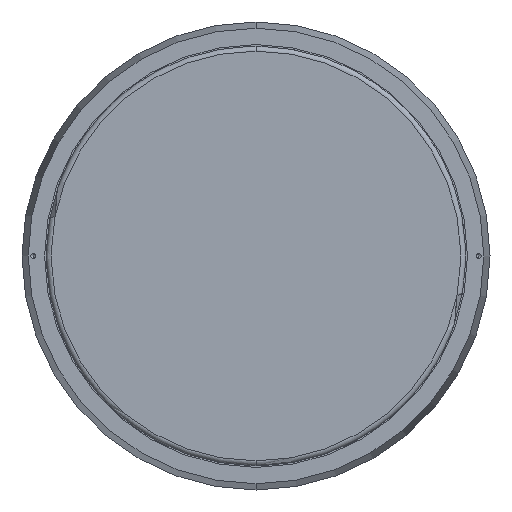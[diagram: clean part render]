
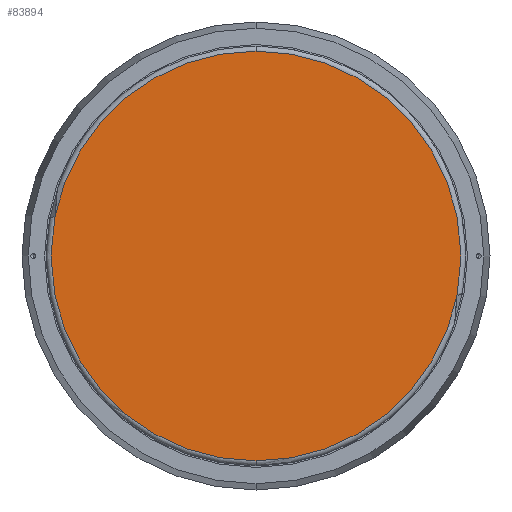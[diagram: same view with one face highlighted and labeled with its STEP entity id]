
A CAD part, front view. The second image highlights one B-rep face of the part: STEP entity #83894.
In plain terms, the highlighted planar face has unit normal (0, -1, 0).
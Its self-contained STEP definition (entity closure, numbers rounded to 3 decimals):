
#2123 = EDGE_CURVE ( 'NONE', #52016, #102646, #49106, .T. ) ;
#3369 = CARTESIAN_POINT ( 'NONE',  ( 624.86, -1805., 13.896 ) ) ;
#7694 = EDGE_CURVE ( 'NONE', #73231, #91279, #47572, .T. ) ;
#7807 = B_SPLINE_CURVE_WITH_KNOTS ( 'NONE', 3,
 ( #71738, #153713, #85539, #3369, #99308, #17209, #112995 ),
 .UNSPECIFIED., .F., .F.,
 ( 4, 3, 4 ),
 ( 0., 0., 0. ),
 .UNSPECIFIED. ) ;
#10403 = VECTOR ( 'NONE', #107259, 1000. ) ;
#12068 = CARTESIAN_POINT ( 'NONE',  ( -625., -1805., 13.91 ) ) ;
#13544 = CARTESIAN_POINT ( 'NONE',  ( -624.953, -1805., -13.822 ) ) ;
#15661 = DIRECTION ( 'NONE',  ( 0., 1., 0. ) ) ;
#17209 = CARTESIAN_POINT ( 'NONE',  ( 624.85, -1805., 13.904 ) ) ;
#18226 = CARTESIAN_POINT ( 'NONE',  ( -624.855, -1805., 13.9 ) ) ;
#19348 = ORIENTED_EDGE ( 'NONE', *, *, #86008, .T. ) ;
#21154 = EDGE_LOOP ( 'NONE', ( #19348, #62302, #103770, #129667, #108527, #141246, #22298, #166875, #81341, #94655, #135544, #59909 ) ) ;
#22114 = CARTESIAN_POINT ( 'NONE',  ( 624.85, -1805., -13.904 ) ) ;
#22298 = ORIENTED_EDGE ( 'NONE', *, *, #39572, .F. ) ;
#25124 = CARTESIAN_POINT ( 'NONE',  ( -625., -1805., 13.785 ) ) ;
#26149 = EDGE_CURVE ( 'NONE', #36899, #27012, #87702, .T. ) ;
#27012 = VERTEX_POINT ( 'NONE', #111096 ) ;
#27401 = CARTESIAN_POINT ( 'NONE',  ( -624.86, -1805., -13.896 ) ) ;
#30232 = AXIS2_PLACEMENT_3D ( 'NONE', #73798, #169505, #87632 ) ;
#32041 = CARTESIAN_POINT ( 'NONE',  ( -625., -1805., -13.785 ) ) ;
#32069 = CARTESIAN_POINT ( 'NONE',  ( -624.907, -1805., 13.859 ) ) ;
#36899 = VERTEX_POINT ( 'NONE', #32041 ) ;
#37127 = CARTESIAN_POINT ( 'NONE',  ( 0., -1805., 0. ) ) ;
#39163 = VERTEX_POINT ( 'NONE', #68620 ) ;
#39572 = EDGE_CURVE ( 'NONE', #27012, #102646, #111167, .T. ) ;
#41175 = CARTESIAN_POINT ( 'NONE',  ( -624.85, -1805., -13.904 ) ) ;
#42164 = VERTEX_POINT ( 'NONE', #168656 ) ;
#45808 = CARTESIAN_POINT ( 'NONE',  ( -625., -1805., 13.785 ) ) ;
#47572 = CIRCLE ( 'NONE', #66124, 625. ) ;
#49106 = B_SPLINE_CURVE_WITH_KNOTS ( 'NONE', 3,
 ( #100326, #86558, #18226, #113994, #32069, #127773, #45808 ),
 .UNSPECIFIED., .F., .F.,
 ( 4, 3, 4 ),
 ( 0., 0., 0. ),
 .UNSPECIFIED. ) ;
#50929 = DIRECTION ( 'NONE',  ( 0., 0., 1. ) ) ;
#51233 = AXIS2_PLACEMENT_3D ( 'NONE', #135413, #53514, #149222 ) ;
#52016 = VERTEX_POINT ( 'NONE', #177051 ) ;
#53514 = DIRECTION ( 'NONE',  ( 0., -1., 0. ) ) ;
#54712 = CIRCLE ( 'NONE', #86678, 625. ) ;
#55588 = DIRECTION ( 'NONE',  ( 0., 1., 0. ) ) ;
#59611 = FACE_OUTER_BOUND ( 'NONE', #21154, .T. ) ;
#59909 = ORIENTED_EDGE ( 'NONE', *, *, #127842, .T. ) ;
#62302 = ORIENTED_EDGE ( 'NONE', *, *, #87872, .T. ) ;
#63439 = CARTESIAN_POINT ( 'NONE',  ( 624.855, -1805., -13.9 ) ) ;
#66124 = AXIS2_PLACEMENT_3D ( 'NONE', #97802, #15661, #111469 ) ;
#68574 = DIRECTION ( 'NONE',  ( 0., 0., 1. ) ) ;
#68620 = CARTESIAN_POINT ( 'NONE',  ( 625., -1805., -13.785 ) ) ;
#71738 = CARTESIAN_POINT ( 'NONE',  ( 625., -1805., 13.785 ) ) ;
#73231 = VERTEX_POINT ( 'NONE', #128717 ) ;
#73798 = CARTESIAN_POINT ( 'NONE',  ( 0., -1805., 0. ) ) ;
#74251 = AXIS2_PLACEMENT_3D ( 'NONE', #137506, #55588, #151301 ) ;
#74307 = CARTESIAN_POINT ( 'NONE',  ( 0., -1805., -625. ) ) ;
#75323 = LINE ( 'NONE', #166291, #103171 ) ;
#77218 = CARTESIAN_POINT ( 'NONE',  ( 624.907, -1805., -13.859 ) ) ;
#80420 = PLANE ( 'NONE',  #51233 ) ;
#81341 = ORIENTED_EDGE ( 'NONE', *, *, #115812, .T. ) ;
#83894 = ADVANCED_FACE ( 'NONE', ( #59611 ), #80420, .T. ) ;
#85169 = VERTEX_POINT ( 'NONE', #101800 ) ;
#85539 = CARTESIAN_POINT ( 'NONE',  ( 624.907, -1805., 13.859 ) ) ;
#86008 = EDGE_CURVE ( 'NONE', #39163, #85169, #75323, .T. ) ;
#86558 = CARTESIAN_POINT ( 'NONE',  ( -624.85, -1805., 13.904 ) ) ;
#86678 = AXIS2_PLACEMENT_3D ( 'NONE', #37127, #132832, #50929 ) ;
#87632 = DIRECTION ( 'NONE',  ( 0., 0., 1. ) ) ;
#87702 = LINE ( 'NONE', #161687, #10403 ) ;
#87872 = EDGE_CURVE ( 'NONE', #85169, #114388, #97732, .T. ) ;
#90185 = EDGE_CURVE ( 'NONE', #118050, #42164, #176077, .T. ) ;
#91059 = CARTESIAN_POINT ( 'NONE',  ( 625., -1805., -13.785 ) ) ;
#91279 = VERTEX_POINT ( 'NONE', #74307 ) ;
#91498 = EDGE_CURVE ( 'NONE', #114388, #42164, #7807, .T. ) ;
#93645 = DIRECTION ( 'NONE',  ( 0., 0., 1. ) ) ;
#94655 = ORIENTED_EDGE ( 'NONE', *, *, #146279, .F. ) ;
#94714 = CIRCLE ( 'NONE', #30232, 625. ) ;
#97732 = LINE ( 'NONE', #150546, #170464 ) ;
#97802 = CARTESIAN_POINT ( 'NONE',  ( 0., -1805., 0. ) ) ;
#98576 = CARTESIAN_POINT ( 'NONE',  ( 0., -1805., 625. ) ) ;
#99308 = CARTESIAN_POINT ( 'NONE',  ( 624.855, -1805., 13.9 ) ) ;
#100326 = CARTESIAN_POINT ( 'NONE',  ( -624.845, -1805., 13.908 ) ) ;
#101800 = CARTESIAN_POINT ( 'NONE',  ( 625., -1805., 0. ) ) ;
#102646 = VERTEX_POINT ( 'NONE', #25124 ) ;
#103171 = VECTOR ( 'NONE', #111801, 1000. ) ;
#103770 = ORIENTED_EDGE ( 'NONE', *, *, #91498, .T. ) ;
#107259 = DIRECTION ( 'NONE',  ( 0., 0., 1. ) ) ;
#108527 = ORIENTED_EDGE ( 'NONE', *, *, #153548, .F. ) ;
#109388 = CARTESIAN_POINT ( 'NONE',  ( -624.907, -1805., -13.859 ) ) ;
#111096 = CARTESIAN_POINT ( 'NONE',  ( -625., -1805., 0. ) ) ;
#111167 = LINE ( 'NONE', #12068, #166818 ) ;
#111469 = DIRECTION ( 'NONE',  ( 0., 0., 1. ) ) ;
#111801 = DIRECTION ( 'NONE',  ( 0., 0., 1. ) ) ;
#112995 = CARTESIAN_POINT ( 'NONE',  ( 624.845, -1805., 13.908 ) ) ;
#113994 = CARTESIAN_POINT ( 'NONE',  ( -624.86, -1805., 13.896 ) ) ;
#114388 = VERTEX_POINT ( 'NONE', #170109 ) ;
#115812 = EDGE_CURVE ( 'NONE', #36899, #135546, #152814, .T. ) ;
#118050 = VERTEX_POINT ( 'NONE', #98576 ) ;
#123121 = CARTESIAN_POINT ( 'NONE',  ( -624.855, -1805., -13.9 ) ) ;
#127773 = CARTESIAN_POINT ( 'NONE',  ( -624.953, -1805., 13.822 ) ) ;
#127842 = EDGE_CURVE ( 'NONE', #73231, #39163, #169317, .T. ) ;
#128717 = CARTESIAN_POINT ( 'NONE',  ( 624.845, -1805., -13.908 ) ) ;
#129667 = ORIENTED_EDGE ( 'NONE', *, *, #90185, .F. ) ;
#132832 = DIRECTION ( 'NONE',  ( 0., 1., 0. ) ) ;
#135413 = CARTESIAN_POINT ( 'NONE',  ( -625., -1805., 0. ) ) ;
#135544 = ORIENTED_EDGE ( 'NONE', *, *, #7694, .F. ) ;
#135546 = VERTEX_POINT ( 'NONE', #151843 ) ;
#136871 = CARTESIAN_POINT ( 'NONE',  ( -624.845, -1805., -13.908 ) ) ;
#137506 = CARTESIAN_POINT ( 'NONE',  ( 0., -1805., 0. ) ) ;
#141246 = ORIENTED_EDGE ( 'NONE', *, *, #2123, .T. ) ;
#146279 = EDGE_CURVE ( 'NONE', #91279, #135546, #94714, .T. ) ;
#149222 = DIRECTION ( 'NONE',  ( 0., 0., -1. ) ) ;
#150546 = CARTESIAN_POINT ( 'NONE',  ( 625., -1805., 13.91 ) ) ;
#151301 = DIRECTION ( 'NONE',  ( 0., 0., 1. ) ) ;
#151843 = CARTESIAN_POINT ( 'NONE',  ( -624.845, -1805., -13.908 ) ) ;
#152814 = B_SPLINE_CURVE_WITH_KNOTS ( 'NONE', 3,
 ( #177551, #13544, #109388, #27401, #123121, #41175, #136871 ),
 .UNSPECIFIED., .F., .F.,
 ( 4, 3, 4 ),
 ( 0., 0., 0. ),
 .UNSPECIFIED. ) ;
#153548 = EDGE_CURVE ( 'NONE', #52016, #118050, #54712, .T. ) ;
#153713 = CARTESIAN_POINT ( 'NONE',  ( 624.953, -1805., 13.822 ) ) ;
#159193 = CARTESIAN_POINT ( 'NONE',  ( 624.86, -1805., -13.896 ) ) ;
#161687 = CARTESIAN_POINT ( 'NONE',  ( -625., -1805., 13.91 ) ) ;
#166291 = CARTESIAN_POINT ( 'NONE',  ( 625., -1805., 13.91 ) ) ;
#166818 = VECTOR ( 'NONE', #93645, 1000. ) ;
#166875 = ORIENTED_EDGE ( 'NONE', *, *, #26149, .F. ) ;
#168656 = CARTESIAN_POINT ( 'NONE',  ( 624.845, -1805., 13.908 ) ) ;
#169317 = B_SPLINE_CURVE_WITH_KNOTS ( 'NONE', 3,
 ( #172339, #22114, #63439, #159193, #77218, #172932, #91059 ),
 .UNSPECIFIED., .F., .F.,
 ( 4, 3, 4 ),
 ( 0., 0., 0. ),
 .UNSPECIFIED. ) ;
#169505 = DIRECTION ( 'NONE',  ( 0., 1., 0. ) ) ;
#170109 = CARTESIAN_POINT ( 'NONE',  ( 625., -1805., 13.785 ) ) ;
#170464 = VECTOR ( 'NONE', #68574, 1000. ) ;
#172339 = CARTESIAN_POINT ( 'NONE',  ( 624.845, -1805., -13.908 ) ) ;
#172932 = CARTESIAN_POINT ( 'NONE',  ( 624.953, -1805., -13.822 ) ) ;
#176077 = CIRCLE ( 'NONE', #74251, 625. ) ;
#177051 = CARTESIAN_POINT ( 'NONE',  ( -624.845, -1805., 13.908 ) ) ;
#177551 = CARTESIAN_POINT ( 'NONE',  ( -625., -1805., -13.785 ) ) ;
